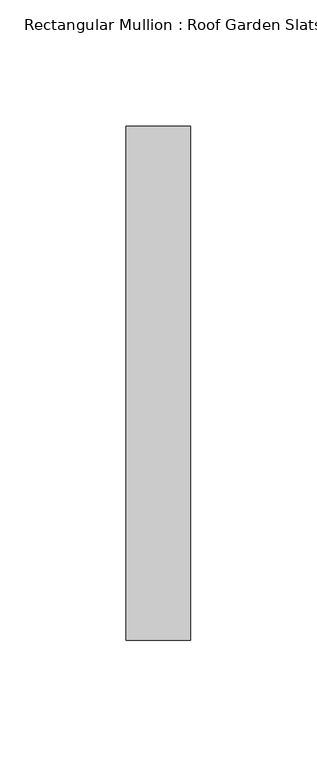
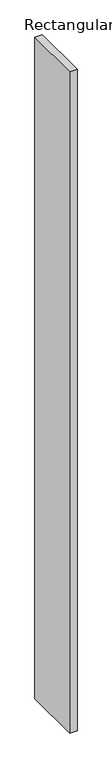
"""IFC4 building model written with IfcOpenShell, lengths in millimetres: member geometry, Rectangular Mullion : Roof Garden Slats."""

import ifcopenshell
import ifcopenshell.guid

model = None  # the IFC model being written
_history = None  # IfcOwnerHistory: only IFC2X3 demands one
_inside = {}  # id of a spatial element -> (the spatial element, [elements in it])
_under = {}  # id of a project, library or spatial element -> (it, [spatial elements below it])
_declared = {}  # id of a project -> (the project, [libraries it declares])
_typed = {}  # id of a type object -> (the type object, [elements of that type])
_made_of = {}  # id of a material, layer set ... -> (it, [elements and type objects made of it])


def new_model(schema):
    """Start an empty IFC model of exactly this schema.

    Asked for "IFC4X3", IfcOpenShell would pick the latest addendum, in which some entities
    have other attributes; the version numbers below select the first issue.
    IFC2X3 requires an IfcOwnerHistory on every rooted entity: one is made here for all.
    """
    global model, _history
    if schema == "IFC4X3":
        model = ifcopenshell.file(schema_version=(4, 3, 0, 0))
    else:
        model = ifcopenshell.file(schema=schema)
    _inside.clear()
    _under.clear()
    _declared.clear()
    _typed.clear()
    _made_of.clear()
    _history = None
    if model.schema == "IFC2X3":
        org = make("IfcOrganization", Name="unknown")
        user = make(
            "IfcPersonAndOrganization",
            ThePerson=make("IfcPerson", FamilyName="unknown"),
            TheOrganization=org,
        )
        app = make(
            "IfcApplication",
            ApplicationDeveloper=org,
            Version="unknown",
            ApplicationFullName="unknown",
            ApplicationIdentifier="unknown",
        )
        _history = make(
            "IfcOwnerHistory",
            OwningUser=user,
            OwningApplication=app,
            ChangeAction="ADDED",
            CreationDate=0,
        )
    return model


def make(cls, **values):
    """One entity of the class cls with the attributes given. An attribute that is None is left unset."""
    return model.create_entity(
        cls, **{name: value for name, value in values.items() if value is not None}
    )


def rooted(cls, **values):
    """An entity with a GlobalId (a new one), such as an element, a storey or a relation."""
    return make(cls, GlobalId=ifcopenshell.guid.new(), OwnerHistory=_history, **values)


def si_unit(unit_type, name, prefix=None):
    """IfcSIUnit, for example si_unit("LENGTHUNIT", "METRE", prefix="MILLI")."""
    return make("IfcSIUnit", UnitType=unit_type, Prefix=prefix, Name=name)


def assignment(units):
    """IfcUnitAssignment: the units of a project."""
    return None if units is None else make("IfcUnitAssignment", Units=units)


def point(xyz):
    """IfcCartesianPoint."""
    return None if xyz is None else make("IfcCartesianPoint", Coordinates=xyz)


def direction(xyz):
    """IfcDirection."""
    return None if xyz is None else make("IfcDirection", DirectionRatios=xyz)


def frame(location, z_axis=None, x_axis=None):
    """IfcAxis2Placement3D, a coordinate frame: its origin and axes. An axis left out is left unset."""
    return make(
        "IfcAxis2Placement3D",
        Location=point(location),
        Axis=direction(z_axis),
        RefDirection=direction(x_axis),
    )


def origin():
    """The frame at (0, 0, 0) with its axes left unset."""
    return frame((0.0, 0.0, 0.0))


def place(relative_to, where):
    """IfcLocalPlacement: puts the frame where relative to a parent placement (None: the world)."""
    return make(
        "IfcLocalPlacement", PlacementRelTo=relative_to, RelativePlacement=where
    )


def context(
    kind, dimensions, precision=None, world=None, true_north=None, identifier=None
):
    """IfcGeometricRepresentationContext, for example the 3D "Model" context."""
    return make(
        "IfcGeometricRepresentationContext",
        ContextIdentifier=identifier,
        ContextType=kind,
        CoordinateSpaceDimension=dimensions,
        Precision=precision,
        WorldCoordinateSystem=world,
        TrueNorth=true_north,
    )


def project(units=None, contexts=None):
    """IfcProject with its units and contexts."""
    return rooted(
        "IfcProject",
        Name="project",
        RepresentationContexts=contexts,
        UnitsInContext=assignment(units),
    )


def spatial(cls, under=None, at=None, **own):
    """A site, building, storey or space (cls), placed at a placement, below another one or the project."""
    s = rooted(cls, ObjectPlacement=at, **own)
    if under is not None:
        _under.setdefault(under.id(), (under, []))[1].append(s)
    return s


def polyline(points):
    """IfcPolyline through the points."""
    return make("IfcPolyline", Points=[point(p) for p in points])


def outline(outer, holes=None, kind="AREA"):
    """IfcArbitraryClosedProfileDef: a profile drawn as a closed curve; with holes, ...WithVoids."""
    if holes is None:
        return make("IfcArbitraryClosedProfileDef", ProfileType=kind, OuterCurve=outer)
    return make(
        "IfcArbitraryProfileDefWithVoids",
        ProfileType=kind,
        OuterCurve=outer,
        InnerCurves=holes,
    )


def extrude(swept, where, along, depth):
    """IfcExtrudedAreaSolid: the profile swept, set in the frame where, extruded along a direction by depth."""
    return make(
        "IfcExtrudedAreaSolid",
        SweptArea=swept,
        Position=where,
        ExtrudedDirection=direction(along),
        Depth=depth,
    )


def shape(context_of_items, identifier, shape_type, items):
    """IfcShapeRepresentation: the items that make up one representation, for example the "Body"."""
    return make(
        "IfcShapeRepresentation",
        ContextOfItems=context_of_items,
        RepresentationIdentifier=identifier,
        RepresentationType=shape_type,
        Items=items,
    )


def source(mapping_origin, context_of_items, identifier, shape_type, items):
    """IfcRepresentationMap: a shape defined once, which mapped items show again and again."""
    return make(
        "IfcRepresentationMap",
        MappingOrigin=mapping_origin,
        MappedRepresentation=shape(context_of_items, identifier, shape_type, items),
    )


def transform(
    local_origin,
    x_axis=None,
    y_axis=None,
    z_axis=None,
    scale=None,
    scale2=None,
    scale3=None,
    uniform=True,
):
    """IfcCartesianTransformationOperator3D, or its non-uniform kind. x_axis, y_axis, z_axis: its Axis1, 2, 3."""
    if uniform:
        return make(
            "IfcCartesianTransformationOperator3D",
            Axis1=direction(x_axis),
            Axis2=direction(y_axis),
            LocalOrigin=point(local_origin),
            Scale=scale,
            Axis3=direction(z_axis),
        )
    return make(
        "IfcCartesianTransformationOperator3DnonUniform",
        Axis1=direction(x_axis),
        Axis2=direction(y_axis),
        LocalOrigin=point(local_origin),
        Scale=scale,
        Axis3=direction(z_axis),
        Scale2=scale2,
        Scale3=scale3,
    )


def mapped(mapping_source, mapping_target):
    """IfcMappedItem: shows the shape of a source again, moved by a transform."""
    return make(
        "IfcMappedItem", MappingSource=mapping_source, MappingTarget=mapping_target
    )


def made_of(thing, what):
    """Note that an element or type object is made of a material, layer set ...; save() writes the relation."""
    if what is not None:
        _made_of.setdefault(what.id(), (what, []))[1].append(thing)
    return thing


def element(
    cls,
    number,
    at=None,
    inside=None,
    cuts=None,
    type_object=None,
    material=None,
    context=None,
    identifier="Body",
    shape_type=None,
    held_by="IfcProductDefinitionShape",
    body=None,
    shapes=None,
    **own,
):
    """One element of the class cls, such as IfcWall. Its Tag is "e" and its number.

    at: its placement. inside: the storey or other place that contains it. cuts: it is an
    opening in that element (IfcRelVoidsElement). A single representation is given by context,
    identifier, shape_type and body (its items); several are given by shapes. held_by: the class
    of the entity that holds the representations. save() writes the other relations.
    """
    e = rooted(cls, Tag="e%d" % number, ObjectPlacement=at, **own)
    if body is not None:
        shapes = [shape(context, identifier, shape_type, body)]
    if shapes is not None:
        e.Representation = make(held_by, Representations=shapes)
    if inside is not None:
        _inside.setdefault(inside.id(), (inside, []))[1].append(e)
    if cuts is not None:
        rooted(
            "IfcRelVoidsElement", RelatingBuildingElement=cuts, RelatedOpeningElement=e
        )
    if type_object is not None:
        _typed.setdefault(type_object.id(), (type_object, []))[1].append(e)
    return made_of(e, material)


def aggregate(whole, parts):
    """IfcRelAggregates: a whole, such as a stair, and the parts it consists of."""
    return rooted("IfcRelAggregates", RelatingObject=whole, RelatedObjects=parts)


def save(model, path):
    """Write the relations noted so far, then the file.

    IfcRelAggregates (storeys below a building ...), IfcRelContainedInSpatialStructure (elements
    in a storey), IfcRelDefinesByType, IfcRelAssociatesMaterial and IfcRelDeclares: one each for
    every whole, place, type object, material and project.
    """
    for whole, parts in _under.values():
        aggregate(whole, parts)
    for where, things in _inside.values():
        rooted(
            "IfcRelContainedInSpatialStructure",
            RelatedElements=things,
            RelatingStructure=where,
        )
    for kind, things in _typed.values():
        rooted("IfcRelDefinesByType", RelatedObjects=things, RelatingType=kind)
    for what, things in _made_of.values():
        rooted("IfcRelAssociatesMaterial", RelatedObjects=things, RelatingMaterial=what)
    for by, libraries in _declared.values():
        rooted("IfcRelDeclares", RelatingContext=by, RelatedDefinitions=libraries)
    model.write(path)


def rectangular_mullion_roof_garden_slats_49db61a6(model_context):
    return source(origin(), model_context, "Body", "SweptSolid", [
        extrude(outline(polyline([(12.7, 139.7), (12.7, -63.5), (-12.7, -63.5), (-12.7, 139.7), (12.7, 139.7)])), frame((0.0, 0.0, -2366.3521309), z_axis=(0.0, 0.0, 1.0), x_axis=(1.0, 0.0, 0.0)), (0.0, 0.0, 1.0), 2366.3521309),
    ])


if __name__ == "__main__":
    model = new_model("IFC4")
    model_context = context("Model", 3, world=origin())
    ifc_project = project(units=[si_unit("LENGTHUNIT", "METRE", prefix="MILLI")], contexts=[model_context])
    site = spatial("IfcSite", under=ifc_project)
    building = spatial("IfcBuilding", under=site)
    placement = place(None, origin())
    rectangular_mullion_roof_garden_slats_shape = rectangular_mullion_roof_garden_slats_49db61a6(model_context)
    element("IfcMember", 1, ObjectType="Rectangular Mullion : Roof Garden Slats", at=placement, inside=building, context=model_context, shape_type="MappedRepresentation", body=[
        mapped(rectangular_mullion_roof_garden_slats_shape, transform((0.0, 0.0, 0.0), x_axis=(1.0, 0.0, 0.0), y_axis=(0.0, 1.0, 0.0), z_axis=(0.0, 0.0, 1.0))),
    ])
    save(model, "model.ifc")
